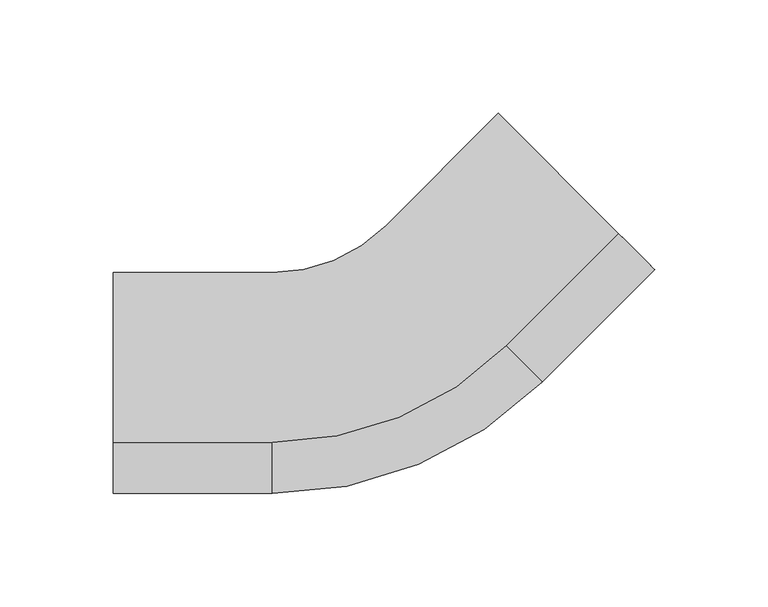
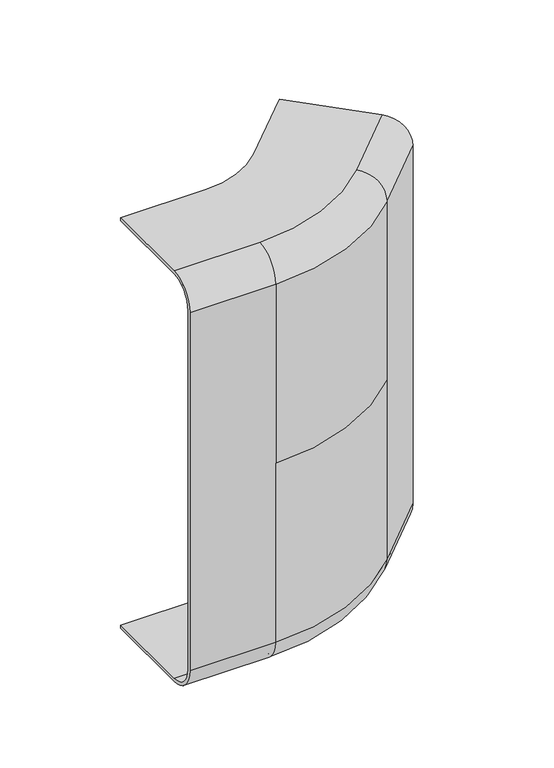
"""IFC4 building model written with IfcOpenShell, lengths in millimetres: cable carrier fitting geometry, ССT_Hyperline_FBTR-IRS45 Угол 45° внутренний (вверх) для оптического лотка : Угол 45° внутренний (вверх) для оптического лотка."""

import ifcopenshell
import ifcopenshell.guid

model = None  # the IFC model being written
_history = None  # IfcOwnerHistory: only IFC2X3 demands one
_inside = {}  # id of a spatial element -> (the spatial element, [elements in it])
_under = {}  # id of a project, library or spatial element -> (it, [spatial elements below it])
_declared = {}  # id of a project -> (the project, [libraries it declares])
_typed = {}  # id of a type object -> (the type object, [elements of that type])
_made_of = {}  # id of a material, layer set ... -> (it, [elements and type objects made of it])


def new_model(schema):
    """Start an empty IFC model of exactly this schema.

    Asked for "IFC4X3", IfcOpenShell would pick the latest addendum, in which some entities
    have other attributes; the version numbers below select the first issue.
    IFC2X3 requires an IfcOwnerHistory on every rooted entity: one is made here for all.
    """
    global model, _history
    if schema == "IFC4X3":
        model = ifcopenshell.file(schema_version=(4, 3, 0, 0))
    else:
        model = ifcopenshell.file(schema=schema)
    _inside.clear()
    _under.clear()
    _declared.clear()
    _typed.clear()
    _made_of.clear()
    _history = None
    if model.schema == "IFC2X3":
        org = make("IfcOrganization", Name="unknown")
        user = make(
            "IfcPersonAndOrganization",
            ThePerson=make("IfcPerson", FamilyName="unknown"),
            TheOrganization=org,
        )
        app = make(
            "IfcApplication",
            ApplicationDeveloper=org,
            Version="unknown",
            ApplicationFullName="unknown",
            ApplicationIdentifier="unknown",
        )
        _history = make(
            "IfcOwnerHistory",
            OwningUser=user,
            OwningApplication=app,
            ChangeAction="ADDED",
            CreationDate=0,
        )
    return model


def make(cls, **values):
    """One entity of the class cls with the attributes given. An attribute that is None is left unset."""
    return model.create_entity(
        cls, **{name: value for name, value in values.items() if value is not None}
    )


def rooted(cls, **values):
    """An entity with a GlobalId (a new one), such as an element, a storey or a relation."""
    return make(cls, GlobalId=ifcopenshell.guid.new(), OwnerHistory=_history, **values)


def si_unit(unit_type, name, prefix=None):
    """IfcSIUnit, for example si_unit("LENGTHUNIT", "METRE", prefix="MILLI")."""
    return make("IfcSIUnit", UnitType=unit_type, Prefix=prefix, Name=name)


def assignment(units):
    """IfcUnitAssignment: the units of a project."""
    return None if units is None else make("IfcUnitAssignment", Units=units)


def point(xyz):
    """IfcCartesianPoint."""
    return None if xyz is None else make("IfcCartesianPoint", Coordinates=xyz)


def direction(xyz):
    """IfcDirection."""
    return None if xyz is None else make("IfcDirection", DirectionRatios=xyz)


def frame(location, z_axis=None, x_axis=None):
    """IfcAxis2Placement3D, a coordinate frame: its origin and axes. An axis left out is left unset."""
    return make(
        "IfcAxis2Placement3D",
        Location=point(location),
        Axis=direction(z_axis),
        RefDirection=direction(x_axis),
    )


def origin():
    """The frame at (0, 0, 0) with its axes left unset."""
    return frame((0.0, 0.0, 0.0))


def place(relative_to, where):
    """IfcLocalPlacement: puts the frame where relative to a parent placement (None: the world)."""
    return make(
        "IfcLocalPlacement", PlacementRelTo=relative_to, RelativePlacement=where
    )


def context(
    kind, dimensions, precision=None, world=None, true_north=None, identifier=None
):
    """IfcGeometricRepresentationContext, for example the 3D "Model" context."""
    return make(
        "IfcGeometricRepresentationContext",
        ContextIdentifier=identifier,
        ContextType=kind,
        CoordinateSpaceDimension=dimensions,
        Precision=precision,
        WorldCoordinateSystem=world,
        TrueNorth=true_north,
    )


def project(units=None, contexts=None):
    """IfcProject with its units and contexts."""
    return rooted(
        "IfcProject",
        Name="project",
        RepresentationContexts=contexts,
        UnitsInContext=assignment(units),
    )


def spatial(cls, under=None, at=None, **own):
    """A site, building, storey or space (cls), placed at a placement, below another one or the project."""
    s = rooted(cls, ObjectPlacement=at, **own)
    if under is not None:
        _under.setdefault(under.id(), (under, []))[1].append(s)
    return s


def polyline(points):
    """IfcPolyline through the points."""
    return make("IfcPolyline", Points=[point(p) for p in points])


def circle_curve(where, radius):
    """IfcCircle in the frame where."""
    return make("IfcCircle", Position=where, Radius=radius)


def ellipse_curve(where, semi_axis1, semi_axis2):
    """IfcEllipse in the frame where."""
    return make(
        "IfcEllipse", Position=where, SemiAxis1=semi_axis1, SemiAxis2=semi_axis2
    )


def trimmed(basis, trim1, trim2, sense, master):
    """IfcTrimmedCurve: the piece of a basis curve between two trims."""
    return make(
        "IfcTrimmedCurve",
        BasisCurve=basis,
        Trim1=trim1,
        Trim2=trim2,
        SenseAgreement=sense,
        MasterRepresentation=master,
    )


def shape(context_of_items, identifier, shape_type, items):
    """IfcShapeRepresentation: the items that make up one representation, for example the "Body"."""
    return make(
        "IfcShapeRepresentation",
        ContextOfItems=context_of_items,
        RepresentationIdentifier=identifier,
        RepresentationType=shape_type,
        Items=items,
    )


def source(mapping_origin, context_of_items, identifier, shape_type, items):
    """IfcRepresentationMap: a shape defined once, which mapped items show again and again."""
    return make(
        "IfcRepresentationMap",
        MappingOrigin=mapping_origin,
        MappedRepresentation=shape(context_of_items, identifier, shape_type, items),
    )


def transform(
    local_origin,
    x_axis=None,
    y_axis=None,
    z_axis=None,
    scale=None,
    scale2=None,
    scale3=None,
    uniform=True,
):
    """IfcCartesianTransformationOperator3D, or its non-uniform kind. x_axis, y_axis, z_axis: its Axis1, 2, 3."""
    if uniform:
        return make(
            "IfcCartesianTransformationOperator3D",
            Axis1=direction(x_axis),
            Axis2=direction(y_axis),
            LocalOrigin=point(local_origin),
            Scale=scale,
            Axis3=direction(z_axis),
        )
    return make(
        "IfcCartesianTransformationOperator3DnonUniform",
        Axis1=direction(x_axis),
        Axis2=direction(y_axis),
        LocalOrigin=point(local_origin),
        Scale=scale,
        Axis3=direction(z_axis),
        Scale2=scale2,
        Scale3=scale3,
    )


def mapped(mapping_source, mapping_target):
    """IfcMappedItem: shows the shape of a source again, moved by a transform."""
    return make(
        "IfcMappedItem", MappingSource=mapping_source, MappingTarget=mapping_target
    )


def made_of(thing, what):
    """Note that an element or type object is made of a material, layer set ...; save() writes the relation."""
    if what is not None:
        _made_of.setdefault(what.id(), (what, []))[1].append(thing)
    return thing


def element(
    cls,
    number,
    at=None,
    inside=None,
    cuts=None,
    type_object=None,
    material=None,
    context=None,
    identifier="Body",
    shape_type=None,
    held_by="IfcProductDefinitionShape",
    body=None,
    shapes=None,
    **own,
):
    """One element of the class cls, such as IfcWall. Its Tag is "e" and its number.

    at: its placement. inside: the storey or other place that contains it. cuts: it is an
    opening in that element (IfcRelVoidsElement). A single representation is given by context,
    identifier, shape_type and body (its items); several are given by shapes. held_by: the class
    of the entity that holds the representations. save() writes the other relations.
    """
    e = rooted(cls, Tag="e%d" % number, ObjectPlacement=at, **own)
    if body is not None:
        shapes = [shape(context, identifier, shape_type, body)]
    if shapes is not None:
        e.Representation = make(held_by, Representations=shapes)
    if inside is not None:
        _inside.setdefault(inside.id(), (inside, []))[1].append(e)
    if cuts is not None:
        rooted(
            "IfcRelVoidsElement", RelatingBuildingElement=cuts, RelatedOpeningElement=e
        )
    if type_object is not None:
        _typed.setdefault(type_object.id(), (type_object, []))[1].append(e)
    return made_of(e, material)


def aggregate(whole, parts):
    """IfcRelAggregates: a whole, such as a stair, and the parts it consists of."""
    return rooted("IfcRelAggregates", RelatingObject=whole, RelatedObjects=parts)


def save(model, path):
    """Write the relations noted so far, then the file.

    IfcRelAggregates (storeys below a building ...), IfcRelContainedInSpatialStructure (elements
    in a storey), IfcRelDefinesByType, IfcRelAssociatesMaterial and IfcRelDeclares: one each for
    every whole, place, type object, material and project.
    """
    for whole, parts in _under.values():
        aggregate(whole, parts)
    for where, things in _inside.values():
        rooted(
            "IfcRelContainedInSpatialStructure",
            RelatedElements=things,
            RelatingStructure=where,
        )
    for kind, things in _typed.values():
        rooted("IfcRelDefinesByType", RelatedObjects=things, RelatingType=kind)
    for what, things in _made_of.values():
        rooted("IfcRelAssociatesMaterial", RelatedObjects=things, RelatingMaterial=what)
    for by, libraries in _declared.values():
        rooted("IfcRelDeclares", RelatingContext=by, RelatedDefinitions=libraries)
    model.write(path)


def plane_surface(at):
    """IfcPlane: the flat surface through the origin of the frame at, square to its z axis."""
    return make("IfcPlane", Position=at)


def cylinder_surface(at, radius):
    """IfcCylindricalSurface: all points at the distance radius from the z axis of the frame at."""
    return make("IfcCylindricalSurface", Position=at, Radius=radius)


def revolved_surface(curve, axis_point, axis_direction):
    """IfcSurfaceOfRevolution: the curve turned about the line through axis_point along axis_direction."""
    return make(
        "IfcSurfaceOfRevolution",
        SweptCurve=make("IfcArbitraryOpenProfileDef", ProfileType="CURVE", Curve=curve),
        AxisPosition=make("IfcAxis1Placement", Location=point(axis_point), Axis=direction(axis_direction)),
    )


def advanced_brep(points, edges, surfaces, faces):
    """IfcAdvancedBrep: a solid bounded by faces that lie on surfaces and meet in shared edges.

    An edge is (start, end): straight between two places in points (the first is 0);
    or (start, end, curve); or (start, end, curve, False) where it runs against its curve.
    A face is (place in surfaces, loops), or (place, loops, False) where it looks against
    its surface's normal. A loop lists edges by number (the first is 1), with a minus sign
    where the edge is run from its end to its start. The first loop is the outer one.
    """
    corners = [point(p) for p in points]
    vertices = [make("IfcVertexPoint", VertexGeometry=c) for c in corners]
    made = []
    for start, end, *more in edges:
        made.append(
            make(
                "IfcEdgeCurve",
                EdgeStart=vertices[start],
                EdgeEnd=vertices[end],
                EdgeGeometry=more[0] if more else make("IfcPolyline", Points=[corners[start], corners[end]]),
                SameSense=more[1] if len(more) > 1 else True,
            )
        )
    hull = []
    for where, loops, *sense in faces:
        bounds = []
        for j, loop in enumerate(loops):
            ring = [make("IfcOrientedEdge", EdgeElement=made[abs(k) - 1], Orientation=k > 0) for k in loop]
            bounds.append(
                make(
                    "IfcFaceOuterBound" if j == 0 else "IfcFaceBound",
                    Bound=make("IfcEdgeLoop", EdgeList=ring),
                    Orientation=True,
                )
            )
        hull.append(make("IfcAdvancedFace", Bounds=bounds, FaceSurface=surfaces[where], SameSense=sense[0] if sense else True))
    return make("IfcAdvancedBrep", Outer=make("IfcClosedShell", CfsFaces=hull))


def cable_carrier_fitting_af3ef7cb(model_context):
    return source(origin(), model_context, "Body", "AdvancedBrep", [
        advanced_brep(
        [(116.6255217, 53.3960333, 154.0), (102.483386, 67.5381689, 174.0), (49.4786617, 120.5428932, 174.0), (49.4786617, 120.5428932, 176.54), (102.483386, 67.5381689, 176.54), (118.4215729, 51.5999821, 154.0), (118.4215729, 51.5999821, -154.0), (102.483386, 67.5381689, -176.54), (49.4786617, 120.5428932, -176.54), (49.4786617, 120.5428932, -174.0), (102.483386, 67.5381689, -174.0), (116.6255217, 53.3960333, -154.0), (52.9859114, 18.0406942, -174.0), (67.128047, 3.8985586, -154.0), (-0.018813, 71.0454185, -174.0), (-50.2233944, 50.25, -174.0), (-120.2233944, 50.25, -174.0), (-120.2233944, -24.71, -174.0), (-50.2233944, -24.71, -174.0), (-0.018813, 71.0454185, -176.54), (52.9859114, 18.0406942, -176.54), (-50.2233944, -24.71, -176.54), (-120.2233944, -24.71, -176.54), (-120.2233944, 50.25, -176.54), (-50.2233944, 50.25, -176.54), (68.9240982, 2.1025074, -154.0), (68.9240982, 2.1025074, 154.0), (68.9240982, 2.1025074, 0.0), (67.128047, 3.8985586, 0.0), (67.128047, 3.8985586, 154.0), (-50.2233944, -44.71, -154.0), (-50.2233944, -47.25, -154.0), (-50.2233944, -47.25, 0.0), (-50.2233944, -44.71, 0.0), (-120.2233944, -47.25, -154.0), (-120.2233944, -47.25, 154.0), (-120.2233944, -24.71, 176.54), (-120.2233944, 50.25, 176.54), (-120.2233944, 50.25, 174.0), (-120.2233944, -24.71, 174.0), (-120.2233944, -44.71, 154.0), (-120.2233944, -44.71, -154.0), (-50.2233944, -47.25, 154.0), (-50.2233944, -44.71, 154.0), (52.9859114, 18.0406942, 174.0), (-50.2233944, -24.71, 174.0), (-50.2233944, 50.25, 174.0), (-0.018813, 71.0454185, 174.0), (-0.018813, 71.0454185, 176.54), (-50.2233944, 50.25, 176.54), (-50.2233944, -24.71, 176.54), (52.9859114, 18.0406942, 176.54)],
        [
            (0, 1, circle_curve(frame((102.483386, 67.5381689, 154.0), z_axis=(-0.7071067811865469, -0.7071067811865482, 0.0), x_axis=(0.7071067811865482, -0.7071067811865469, 0.0)), 20.0)),
            (1, 2),
            (2, 3),
            (3, 4),
            (4, 5, circle_curve(frame((102.483386, 67.5381689, 154.0), z_axis=(0.7071067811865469, 0.7071067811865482, 0.0), x_axis=(0.7071067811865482, -0.7071067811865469, 0.0)), 22.54)),
            (5, 6),
            (6, 7, circle_curve(frame((102.483386, 67.5381689, -154.0), z_axis=(0.7071067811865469, 0.7071067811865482, 0.0), x_axis=(0.7071067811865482, -0.7071067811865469, 0.0)), 22.54)),
            (7, 8),
            (8, 9),
            (9, 10),
            (10, 11, circle_curve(frame((102.483386, 67.5381689, -154.0), z_axis=(-0.7071067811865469, -0.7071067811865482, 0.0), x_axis=(0.7071067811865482, -0.7071067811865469, 0.0)), 20.0)),
            (11, 0),
            (10, 12),
            (12, 13, circle_curve(frame((52.9859114, 18.0406942, -154.0), z_axis=(-0.7071067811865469, -0.7071067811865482, 0.0), x_axis=(0.7071067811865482, -0.7071067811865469, 0.0)), 20.0)),
            (13, 11),
            (9, 14),
            (14, 15, circle_curve(frame((-50.2233944, 121.25, -174.0), z_axis=(0.0, 0.0, -1.0), x_axis=(0.7071067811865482, -0.7071067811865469, 0.0)), 71.0)),
            (15, 16),
            (16, 17),
            (17, 18),
            (18, 12, circle_curve(frame((-50.2233944, 121.25, -174.0), z_axis=(0.0, 0.0, 1.0), x_axis=(0.7071067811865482, -0.7071067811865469, 0.0)), 145.96)),
            (8, 19),
            (19, 14),
            (7, 20),
            (20, 21, circle_curve(frame((-50.2233944, 121.25, -176.54), z_axis=(0.0, 0.0, -1.0), x_axis=(0.7071067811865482, -0.7071067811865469, 0.0)), 145.96)),
            (21, 22),
            (22, 23),
            (23, 24),
            (24, 19, circle_curve(frame((-50.2233944, 121.25, -176.54), z_axis=(0.0, 0.0, 1.0), x_axis=(0.7071067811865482, -0.7071067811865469, 0.0)), 71.0)),
            (6, 25),
            (25, 20, circle_curve(frame((52.9859114, 18.0406942, -154.0), z_axis=(0.7071067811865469, 0.7071067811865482, 0.0), x_axis=(0.7071067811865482, -0.7071067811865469, 0.0)), 22.54)),
            (5, 26),
            (26, 27),
            (27, 25),
            (13, 28),
            (28, 29),
            (29, 0),
            (18, 30, circle_curve(frame((-50.2233944, -24.71, -154.0), z_axis=(-1.0, 0.0, 0.0), x_axis=(0.0, -1.0, 0.0)), 20.0)),
            (30, 13, circle_curve(frame((-50.2233944, 121.25, -154.0), z_axis=(0.0, 0.0, 1.0), x_axis=(0.7071067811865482, -0.7071067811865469, 0.0)), 165.96)),
            (24, 15),
            (25, 31, circle_curve(frame((-50.2233944, 121.25, -154.0), z_axis=(0.0, 0.0, -1.0), x_axis=(0.7071067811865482, -0.7071067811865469, 0.0)), 168.5)),
            (31, 21, circle_curve(frame((-50.2233944, -24.71, -154.0), z_axis=(1.0, 0.0, 0.0), x_axis=(0.0, -1.0, 0.0)), 22.54)),
            (27, 32, circle_curve(frame((-50.2233944, 121.25, 0.0), z_axis=(0.0, 0.0, -1.0), x_axis=(0.7071067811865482, -0.7071067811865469, 0.0)), 168.5)),
            (32, 31),
            (30, 33),
            (33, 28, circle_curve(frame((-50.2233944, 121.25, 0.0), z_axis=(0.0, 0.0, 1.0), x_axis=(0.7071067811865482, -0.7071067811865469, 0.0)), 165.96)),
            (16, 23),
            (22, 34, circle_curve(frame((-120.2233944, -24.71, -154.0), z_axis=(-1.0, 0.0, 0.0), x_axis=(0.0, -1.0, 0.0)), 22.54)),
            (34, 35),
            (35, 36, circle_curve(frame((-120.2233944, -24.71, 154.0), z_axis=(-1.0, 0.0, 0.0), x_axis=(0.0, -1.0000000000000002, 0.0)), 22.54)),
            (36, 37),
            (37, 38),
            (38, 39),
            (39, 40, circle_curve(frame((-120.2233944, -24.71, 154.0), z_axis=(1.0, 0.0, 0.0), x_axis=(0.0, -1.0000000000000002, 0.0)), 20.0)),
            (40, 41),
            (41, 17, circle_curve(frame((-120.2233944, -24.71, -154.0), z_axis=(1.0, 0.0, 0.0), x_axis=(0.0, -1.0, 0.0)), 20.0)),
            (41, 30),
            (31, 34),
            (32, 42),
            (42, 35),
            (40, 43),
            (43, 33),
            (29, 44, circle_curve(frame((52.9859114, 18.0406942, 154.0), z_axis=(-0.7071067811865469, -0.7071067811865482, 0.0), x_axis=(0.7071067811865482, -0.7071067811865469, 0.0)), 20.0)),
            (44, 1),
            (44, 45, circle_curve(frame((-50.2233944, 121.25, 174.0), z_axis=(0.0, 0.0, -1.0), x_axis=(0.7071067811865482, -0.7071067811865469, 0.0)), 145.96)),
            (45, 39),
            (38, 46),
            (46, 47, circle_curve(frame((-50.2233944, 121.25, 174.0), z_axis=(0.0, 0.0, 1.0), x_axis=(0.7071067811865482, -0.7071067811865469, 0.0)), 71.0)),
            (47, 2),
            (47, 48),
            (48, 3),
            (48, 49, circle_curve(frame((-50.2233944, 121.25, 176.54), z_axis=(0.0, 0.0, -1.0), x_axis=(0.7071067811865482, -0.7071067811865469, 0.0)), 71.0)),
            (49, 37),
            (36, 50),
            (50, 51, circle_curve(frame((-50.2233944, 121.25, 176.54), z_axis=(0.0, 0.0, 1.0), x_axis=(0.7071067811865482, -0.7071067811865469, 0.0)), 145.96)),
            (51, 4),
            (51, 26, circle_curve(frame((52.9859114, 18.0406942, 154.0), z_axis=(0.7071067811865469, 0.7071067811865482, 0.0), x_axis=(0.7071067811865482, -0.7071067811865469, 0.0)), 22.54)),
            (29, 43, circle_curve(frame((-50.2233944, 121.25, 154.0), z_axis=(0.0, 0.0, -1.0), x_axis=(0.7071067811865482, -0.7071067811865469, 0.0)), 165.96)),
            (43, 45, circle_curve(frame((-50.2233944, -24.71, 154.0), z_axis=(-1.0, 0.0, 0.0), x_axis=(0.0, -1.0, 0.0)), 20.0)),
            (46, 49),
            (50, 42, circle_curve(frame((-50.2233944, -24.71, 154.0), z_axis=(1.0, 0.0, 0.0), x_axis=(0.0, -1.0, 0.0)), 22.54)),
            (42, 26, circle_curve(frame((-50.2233944, 121.25, 154.0), z_axis=(0.0, 0.0, 1.0), x_axis=(0.7071067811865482, -0.7071067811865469, 0.0)), 168.5)),
        ],
        [
            plane_surface(frame((84.126894, 85.8946609, -55.0), z_axis=(0.7071067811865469, 0.7071067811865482, 0.0), x_axis=(0.0, 0.0, 1.0))),
            revolved_surface(polyline([(67.12804697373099, 3.8985586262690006, -154.0), (116.62552167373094, 53.39603332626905, -154.0)]), (102.483386, 67.5381689, -154.0), (-0.7071067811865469, -0.7071067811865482, 0.0)),
            plane_surface(frame((49.4786617, 120.5428932, -174.0), z_axis=(0.0, 0.0, 1.0), x_axis=(-0.7071067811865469, -0.7071067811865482, 0.0))),
            plane_surface(frame((49.4786617, 120.5428932, -176.54), z_axis=(-0.7071067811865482, 0.7071067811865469, 0.0), x_axis=(-0.7071067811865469, -0.7071067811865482, 0.0))),
            plane_surface(frame((102.483386, 67.5381689, -176.54), z_axis=(0.0, 0.0, -1.0), x_axis=(-0.7071067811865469, -0.7071067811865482, 0.0))),
            cylinder_surface(frame((102.483386, 67.5381689, -154.0), z_axis=(0.7071067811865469, 0.7071067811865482, 0.0), x_axis=(0.7071067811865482, -0.7071067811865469, 0.0)), 22.54),
            plane_surface(frame((118.4215729, 51.5999821, 0.0), z_axis=(0.7071067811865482, -0.7071067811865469, 0.0), x_axis=(-0.7071067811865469, -0.7071067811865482, 0.0))),
            plane_surface(frame((116.6255217, 53.3960333, -154.0), z_axis=(-0.707106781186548, 0.7071067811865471, 0.0), x_axis=(-0.7071067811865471, -0.707106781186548, 0.0))),
            revolved_surface(trimmed(ellipse_curve(frame((52.9859114, 18.0406942, -154.0), z_axis=(-0.7071067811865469, -0.7071067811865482, 0.0), x_axis=(0.7071067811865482, -0.7071067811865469, 0.0)), 20.0, 20.0), [point((52.9859114, 18.0406942, -174.0))], [point((67.128047, 3.8985586, -154.0))], True, "CARTESIAN"), (-50.2233944, 121.25, -55.0), (0.0, 0.0, -1.0)),
            revolved_surface(polyline([(-0.018812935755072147, 71.04541853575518, -176.54), (-0.018812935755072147, 71.04541853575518, -174.0)]), (-50.2233944, 121.25, -55.0), (0.0, 0.0, -1.0)),
            revolved_surface(trimmed(ellipse_curve(frame((52.9859114, 18.0406942, -154.0), z_axis=(0.7071067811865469, 0.7071067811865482, 0.0), x_axis=(0.7071067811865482, -0.7071067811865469, 0.0)), 22.54, 22.54), [point((68.9240982, 2.1025074, -154.0))], [point((52.9859114, 18.0406942, -176.54))], True, "CARTESIAN"), (-50.2233944, 121.25, -55.0), (0.0, 0.0, -1.0)),
            cylinder_surface(frame((-50.2233944, 121.25, -55.0), z_axis=(0.0, 0.0, -1.0), x_axis=(0.7071067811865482, -0.7071067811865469, 0.0)), 168.5),
            revolved_surface(polyline([(67.12804700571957, 3.898558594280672, -154.0), (67.12804700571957, 3.898558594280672, 0.0)]), (-50.2233944, 121.25, -55.0), (0.0, 0.0, -1.0)),
            plane_surface(frame((-120.2233944, 1.25, -55.0), z_axis=(-1.0, 0.0, 0.0), x_axis=(0.0, 0.0, 1.0))),
            revolved_surface(polyline([(-120.22339439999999, -44.71, -154.0), (-50.2233944, -44.71, -154.0)]), (-50.2233944, -24.71, -154.0), (-1.0, 0.0, 0.0)),
            plane_surface(frame((-50.2233944, 50.25, -176.54), z_axis=(0.0, 1.0, 0.0), x_axis=(-1.0, 0.0, 0.0))),
            cylinder_surface(frame((-50.2233944, -24.71, -154.0), z_axis=(1.0, 0.0, 0.0), x_axis=(0.0, -1.0, 0.0)), 22.54),
            plane_surface(frame((-50.2233944, -47.25, 0.0), z_axis=(0.0, -1.0, 0.0), x_axis=(-1.0, 0.0, 0.0))),
            plane_surface(frame((-50.2233944, -44.71, -154.0), z_axis=(0.0, 1.0, 0.0), x_axis=(-1.0, 0.0, 0.0))),
            revolved_surface(polyline([(67.12804697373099, 3.8985586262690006, 154.0), (116.62552167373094, 53.39603332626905, 154.0)]), (102.483386, 67.5381689, 154.0), (-0.7071067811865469, -0.7071067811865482, 0.0)),
            plane_surface(frame((102.483386, 67.5381689, 174.0), z_axis=(0.0, 0.0, -1.0000000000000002), x_axis=(-0.7071067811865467, -0.7071067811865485, 0.0))),
            plane_surface(frame((49.4786617, 120.5428932, 174.0), z_axis=(-0.7071067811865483, 0.7071067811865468, 0.0), x_axis=(-0.7071067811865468, -0.7071067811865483, 0.0))),
            plane_surface(frame((49.4786617, 120.5428932, 176.54), z_axis=(0.0, 0.0, 1.0000000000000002), x_axis=(-0.7071067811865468, -0.7071067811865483, 0.0))),
            cylinder_surface(frame((102.483386, 67.5381689, 154.0), z_axis=(0.7071067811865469, 0.7071067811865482, 0.0), x_axis=(0.7071067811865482, -0.7071067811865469, 0.0)), 22.54),
            revolved_surface(trimmed(ellipse_curve(frame((52.9859114, 18.0406942, 154.0), z_axis=(-0.7071067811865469, -0.7071067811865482, 0.0), x_axis=(0.7071067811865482, -0.7071067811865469, 0.0)), 20.0, 20.0), [point((67.128047, 3.8985586, 154.0))], [point((52.9859114, 18.0406942, 174.0))], True, "CARTESIAN"), (-50.2233944, 121.25, 55.0), (0.0, 0.0, -1.0)),
            revolved_surface(polyline([(-0.018812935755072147, 71.04541853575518, 174.0), (-0.018812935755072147, 71.04541853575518, 176.54)]), (-50.2233944, 121.25, 55.0), (0.0, 0.0, -1.0)),
            revolved_surface(trimmed(ellipse_curve(frame((52.9859114, 18.0406942, 154.0), z_axis=(0.7071067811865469, 0.7071067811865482, 0.0), x_axis=(0.7071067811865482, -0.7071067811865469, 0.0)), 22.54, 22.54), [point((52.9859114, 18.0406942, 176.54))], [point((68.9240982, 2.1025074, 154.0))], True, "CARTESIAN"), (-50.2233944, 121.25, 55.0), (0.0, 0.0, -1.0)),
            cylinder_surface(frame((-50.2233944, 121.25, 55.0), z_axis=(0.0, 0.0, -1.0), x_axis=(0.7071067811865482, -0.7071067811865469, 0.0)), 168.5),
            revolved_surface(polyline([(67.12804700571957, 3.898558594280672, 0.0), (67.12804700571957, 3.898558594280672, 154.0)]), (-50.2233944, 121.25, 55.0), (0.0, 0.0, -1.0)),
            revolved_surface(polyline([(-120.22339440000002, -44.71000000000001, 154.0), (-50.2233944, -44.71000000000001, 154.0)]), (-50.2233944, -24.71, 154.0), (-1.0000000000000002, 0.0, 0.0)),
            plane_surface(frame((-50.2233944, 50.25, 174.0), z_axis=(0.0, 1.0, 0.0), x_axis=(-1.0, 0.0, 0.0))),
            cylinder_surface(frame((-50.2233944, -24.71, 154.0), z_axis=(1.0000000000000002, 0.0, 0.0), x_axis=(0.0, -1.0000000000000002, 0.0)), 22.54),
        ],
        [
            (0, [[1, 2, 3, 4, 5, 6, 7, 8, 9, 10, 11, 12]]),
            (1, [[-11, 13, 14, 15]]),
            (2, [[-10, 16, 17, 18, 19, 20, 21, -13]]),
            (3, [[-9, 22, 23, -16]]),
            (4, [[-8, 24, 25, 26, 27, 28, 29, -22]]),
            (5, [[-7, 30, 31, -24]]),
            (6, [[-6, 32, 33, 34, -30]]),
            (7, [[-12, -15, 35, 36, 37]]),
            (8, [[-14, -21, 38, 39]]),
            (9, [[-17, -23, -29, 40]]),
            (10, [[-25, -31, 41, 42]]),
            (11, [[-34, 43, 44, -41]]),
            (12, [[-35, -39, 45, 46]]),
            (13, [[-19, 47, -27, 48, 49, 50, 51, 52, 53, 54, 55, 56]]),
            (14, [[-20, -56, 57, -38]]),
            (15, [[-18, -40, -28, -47]]),
            (16, [[-26, -42, 58, -48]]),
            (17, [[-44, 59, 60, -49, -58]]),
            (18, [[-45, -57, -55, 61, 62]]),
            (19, [[-1, -37, 63, 64]]),
            (20, [[-2, -64, 65, 66, -53, 67, 68, 69]]),
            (21, [[-3, -69, 70, 71]]),
            (22, [[-4, -71, 72, 73, -51, 74, 75, 76]]),
            (23, [[-5, -76, 77, -32]]),
            (24, [[-63, 78, 79, -65]]),
            (25, [[-68, 80, -72, -70]]),
            (26, [[-75, 81, 82, -77]]),
            (27, [[-33, -82, -59, -43]]),
            (28, [[-36, -46, -62, -78]]),
            (29, [[-66, -79, -61, -54]]),
            (30, [[-67, -52, -73, -80]]),
            (31, [[-74, -50, -60, -81]]),
        ],
    ),
    ])


if __name__ == "__main__":
    model = new_model("IFC4")
    model_context = context("Model", 3, world=origin())
    ifc_project = project(units=[si_unit("LENGTHUNIT", "METRE", prefix="MILLI")], contexts=[model_context])
    site = spatial("IfcSite", under=ifc_project)
    building = spatial("IfcBuilding", under=site)
    placement = place(None, origin())
    cable_carrier_fitting_shape = cable_carrier_fitting_af3ef7cb(model_context)
    element("IfcCableCarrierFitting", 1, ObjectType="ССT_Hyperline_FBTR-IRS45 Угол 45° внутренний (вверх) для оптического лотка : Угол 45° внутренний (вверх) для оптического лотка", at=placement, inside=building, context=model_context, shape_type="MappedRepresentation", body=[
        mapped(cable_carrier_fitting_shape, transform((0.0, 0.0, 0.0), x_axis=(1.0, 0.0, 0.0), y_axis=(0.0, 1.0, 0.0), z_axis=(0.0, 0.0, 1.0))),
    ])
    save(model, "model.ifc")
